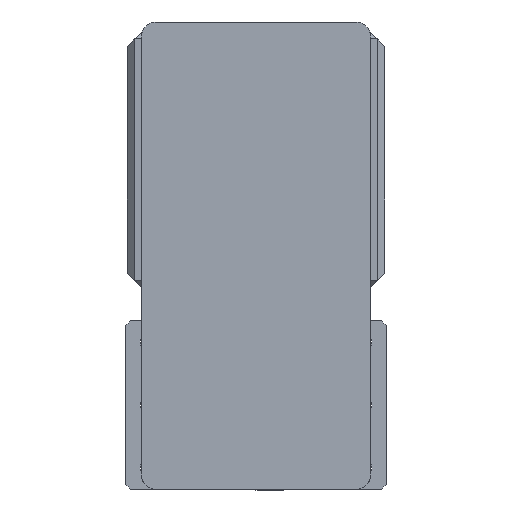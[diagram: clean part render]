
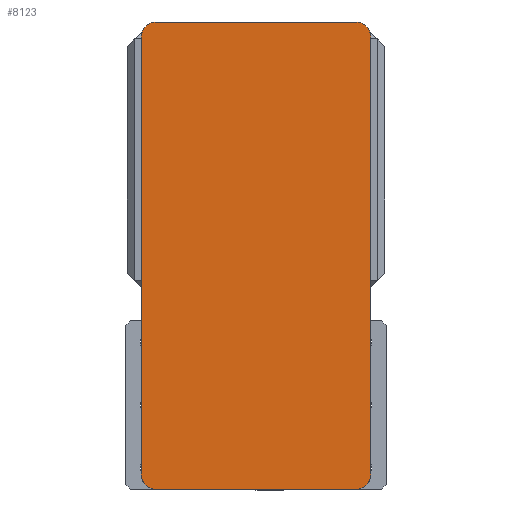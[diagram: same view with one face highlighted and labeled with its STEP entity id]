
A CAD part, left-side view. The second image highlights one B-rep face of the part: STEP entity #8123.
In plain terms, the highlighted planar face has unit normal (-1, 0, 0) as drawn and (0, 0, 1) by its records, which use the part's own axes.
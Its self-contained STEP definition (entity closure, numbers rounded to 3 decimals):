
#663 = CARTESIAN_POINT ( 'NONE',  ( 75., -142.5, 105. ) ) ;
#756 = FACE_OUTER_BOUND ( 'NONE', #4333, .T. ) ;
#1065 = CARTESIAN_POINT ( 'NONE',  ( -75., 152.5, 105. ) ) ;
#1179 = ORIENTED_EDGE ( 'NONE', *, *, #7618, .T. ) ;
#1440 = PLANE ( 'NONE',  #15844 ) ;
#1508 = DIRECTION ( 'NONE',  ( 0., -1., 0. ) ) ;
#1598 = DIRECTION ( 'NONE',  ( 0., 0., 1. ) ) ;
#2345 = LINE ( 'NONE', #1065, #18861 ) ;
#2570 = EDGE_CURVE ( 'NONE', #17155, #3394, #5035, .T. ) ;
#2742 = ORIENTED_EDGE ( 'NONE', *, *, #16920, .T. ) ;
#3027 = DIRECTION ( 'NONE',  ( 1., 0., 0. ) ) ;
#3394 = VERTEX_POINT ( 'NONE', #18145 ) ;
#3528 = CARTESIAN_POINT ( 'NONE',  ( 75., 152.5, 105. ) ) ;
#3795 = VECTOR ( 'NONE', #1508, 1000. ) ;
#3809 = EDGE_CURVE ( 'NONE', #18993, #17111, #6962, .T. ) ;
#4121 = CARTESIAN_POINT ( 'NONE',  ( 65., -152.5, 105. ) ) ;
#4167 = DIRECTION ( 'NONE',  ( 0., 0., 1. ) ) ;
#4333 = EDGE_LOOP ( 'NONE', ( #2742, #10018, #1179, #11116, #19071, #7752, #9336, #6069 ) ) ;
#4373 = DIRECTION ( 'NONE',  ( 0., 0., 1. ) ) ;
#4712 = DIRECTION ( 'NONE',  ( 0., 0., 1. ) ) ;
#5035 = CIRCLE ( 'NONE', #10870, 10. ) ;
#5772 = CARTESIAN_POINT ( 'NONE',  ( -75., -152.5, 105. ) ) ;
#5840 = DIRECTION ( 'NONE',  ( 1., 0., 0. ) ) ;
#5903 = AXIS2_PLACEMENT_3D ( 'NONE', #13470, #4167, #15016 ) ;
#6069 = ORIENTED_EDGE ( 'NONE', *, *, #6173, .T. ) ;
#6166 = LINE ( 'NONE', #3528, #18066 ) ;
#6173 = EDGE_CURVE ( 'NONE', #8514, #14050, #10392, .T. ) ;
#6962 = CIRCLE ( 'NONE', #5903, 10. ) ;
#7030 = CIRCLE ( 'NONE', #10807, 10. ) ;
#7618 = EDGE_CURVE ( 'NONE', #13838, #17155, #6166, .T. ) ;
#7752 = ORIENTED_EDGE ( 'NONE', *, *, #3809, .T. ) ;
#8123 = ADVANCED_FACE ( 'NONE', ( #756 ), #1440, .T. ) ;
#8514 = VERTEX_POINT ( 'NONE', #10334 ) ;
#8526 = VERTEX_POINT ( 'NONE', #4121 ) ;
#9327 = CARTESIAN_POINT ( 'NONE',  ( -75., 152.5, 105. ) ) ;
#9336 = ORIENTED_EDGE ( 'NONE', *, *, #9671, .T. ) ;
#9671 = EDGE_CURVE ( 'NONE', #17111, #8514, #16191, .T. ) ;
#10018 = ORIENTED_EDGE ( 'NONE', *, *, #17836, .T. ) ;
#10334 = CARTESIAN_POINT ( 'NONE',  ( -75., -142.5, 105. ) ) ;
#10392 = CIRCLE ( 'NONE', #18519, 10. ) ;
#10807 = AXIS2_PLACEMENT_3D ( 'NONE', #14004, #4712, #15559 ) ;
#10870 = AXIS2_PLACEMENT_3D ( 'NONE', #13658, #4373, #15221 ) ;
#10980 = CARTESIAN_POINT ( 'NONE',  ( -65., -142.5, 105. ) ) ;
#11116 = ORIENTED_EDGE ( 'NONE', *, *, #2570, .T. ) ;
#12010 = DIRECTION ( 'NONE',  ( -1., 0., 0. ) ) ;
#12380 = DIRECTION ( 'NONE',  ( 0., 0., 1. ) ) ;
#12515 = DIRECTION ( 'NONE',  ( 1., 0., 0. ) ) ;
#12645 = LINE ( 'NONE', #5772, #19941 ) ;
#12836 = CARTESIAN_POINT ( 'NONE',  ( 75., 142.5, 105. ) ) ;
#13470 = CARTESIAN_POINT ( 'NONE',  ( -65., 142.5, 105. ) ) ;
#13658 = CARTESIAN_POINT ( 'NONE',  ( 65., 142.5, 105. ) ) ;
#13838 = VERTEX_POINT ( 'NONE', #663 ) ;
#14004 = CARTESIAN_POINT ( 'NONE',  ( 65., -142.5, 105. ) ) ;
#14050 = VERTEX_POINT ( 'NONE', #16464 ) ;
#14353 = CARTESIAN_POINT ( 'NONE',  ( -65., 152.5, 105. ) ) ;
#15016 = DIRECTION ( 'NONE',  ( 1., 0., 0. ) ) ;
#15221 = DIRECTION ( 'NONE',  ( 1., 0., 0. ) ) ;
#15559 = DIRECTION ( 'NONE',  ( 1., 0., 0. ) ) ;
#15844 = AXIS2_PLACEMENT_3D ( 'NONE', #16973, #12380, #3027 ) ;
#15896 = DIRECTION ( 'NONE',  ( 0., 1., 0. ) ) ;
#16191 = LINE ( 'NONE', #9327, #3795 ) ;
#16464 = CARTESIAN_POINT ( 'NONE',  ( -65., -152.5, 105. ) ) ;
#16920 = EDGE_CURVE ( 'NONE', #14050, #8526, #12645, .T. ) ;
#16973 = CARTESIAN_POINT ( 'NONE',  ( 0., 0., 105. ) ) ;
#17111 = VERTEX_POINT ( 'NONE', #17426 ) ;
#17155 = VERTEX_POINT ( 'NONE', #12836 ) ;
#17426 = CARTESIAN_POINT ( 'NONE',  ( -75., 142.5, 105. ) ) ;
#17836 = EDGE_CURVE ( 'NONE', #8526, #13838, #7030, .T. ) ;
#18066 = VECTOR ( 'NONE', #15896, 1000. ) ;
#18145 = CARTESIAN_POINT ( 'NONE',  ( 65., 152.5, 105. ) ) ;
#18519 = AXIS2_PLACEMENT_3D ( 'NONE', #10980, #1598, #12515 ) ;
#18861 = VECTOR ( 'NONE', #12010, 1000. ) ;
#18993 = VERTEX_POINT ( 'NONE', #14353 ) ;
#19071 = ORIENTED_EDGE ( 'NONE', *, *, #19288, .T. ) ;
#19288 = EDGE_CURVE ( 'NONE', #3394, #18993, #2345, .T. ) ;
#19941 = VECTOR ( 'NONE', #5840, 1000. ) ;
